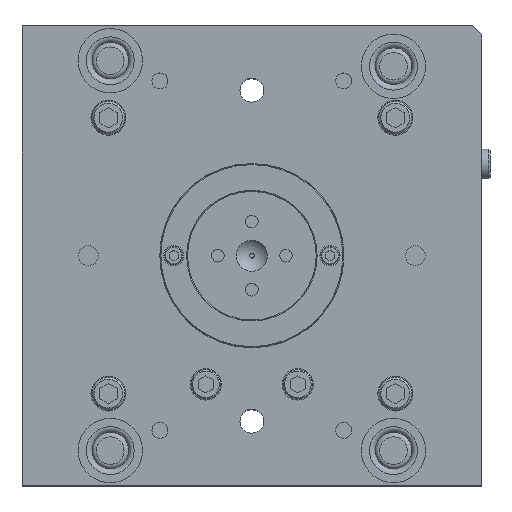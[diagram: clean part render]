
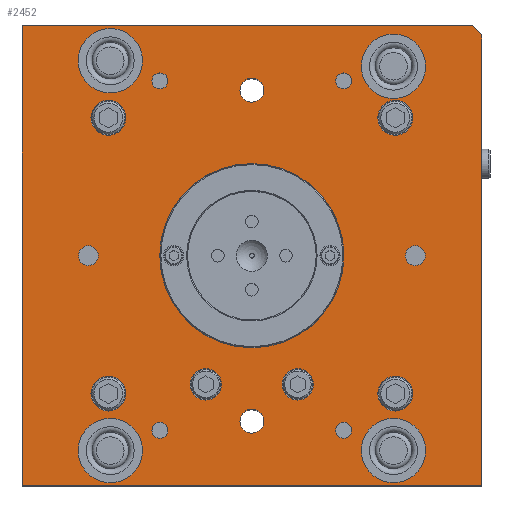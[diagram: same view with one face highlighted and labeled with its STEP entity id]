
A CAD part, top view. The second image highlights one B-rep face of the part: STEP entity #2452.
In plain terms, the highlighted planar face has unit normal (0, 0, 1).
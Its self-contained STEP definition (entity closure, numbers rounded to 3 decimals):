
#2452=ADVANCED_FACE('',(#8212,#8213,#8214,#8215,#8216,#8217,#8218,#8219,
#8220,#8221,#8222,#8223,#8224,#8225,#8226,#8227,#8228,#8229,#8230,#8231),
#3771,.F.);
#3771=PLANE('',#23052);
#4851=LINE('',#31871,#6533);
#4854=LINE('',#31880,#6536);
#4858=LINE('',#31918,#6540);
#4872=LINE('',#31939,#6554);
#4882=LINE('',#32034,#6564);
#6533=VECTOR('',#25857,1.);
#6536=VECTOR('',#25864,1.);
#6540=VECTOR('',#25870,1.);
#6554=VECTOR('',#25886,1.);
#6564=VECTOR('',#25996,1.);
#8212=FACE_BOUND('',#9731,.T.);
#8213=FACE_BOUND('',#9732,.T.);
#8214=FACE_BOUND('',#9733,.T.);
#8215=FACE_BOUND('',#9734,.T.);
#8216=FACE_BOUND('',#9735,.T.);
#8217=FACE_BOUND('',#9736,.T.);
#8218=FACE_BOUND('',#9737,.T.);
#8219=FACE_BOUND('',#9738,.T.);
#8220=FACE_BOUND('',#9739,.T.);
#8221=FACE_BOUND('',#9740,.T.);
#8222=FACE_BOUND('',#9741,.T.);
#8223=FACE_BOUND('',#9742,.T.);
#8224=FACE_BOUND('',#9743,.T.);
#8225=FACE_BOUND('',#9744,.T.);
#8226=FACE_BOUND('',#9745,.T.);
#8227=FACE_BOUND('',#9746,.T.);
#8228=FACE_BOUND('',#9747,.T.);
#8229=FACE_BOUND('',#9748,.T.);
#8230=FACE_BOUND('',#9749,.T.);
#8231=FACE_BOUND('',#9750,.T.);
#9731=EDGE_LOOP('',(#12674));
#9732=EDGE_LOOP('',(#12675));
#9733=EDGE_LOOP('',(#12676));
#9734=EDGE_LOOP('',(#12677));
#9735=EDGE_LOOP('',(#12678));
#9736=EDGE_LOOP('',(#12679));
#9737=EDGE_LOOP('',(#12680));
#9738=EDGE_LOOP('',(#12681));
#9739=EDGE_LOOP('',(#12682));
#9740=EDGE_LOOP('',(#12683));
#9741=EDGE_LOOP('',(#12684));
#9742=EDGE_LOOP('',(#12685));
#9743=EDGE_LOOP('',(#12686));
#9744=EDGE_LOOP('',(#12687));
#9745=EDGE_LOOP('',(#12688));
#9746=EDGE_LOOP('',(#12689));
#9747=EDGE_LOOP('',(#12690));
#9748=EDGE_LOOP('',(#12691));
#9749=EDGE_LOOP('',(#12692));
#9750=EDGE_LOOP('',(#12693,#12694,#12695,#12696,#12697));
#12674=ORIENTED_EDGE('',*,*,#19714,.F.);
#12675=ORIENTED_EDGE('',*,*,#19715,.F.);
#12676=ORIENTED_EDGE('',*,*,#19716,.T.);
#12677=ORIENTED_EDGE('',*,*,#19717,.T.);
#12678=ORIENTED_EDGE('',*,*,#19700,.F.);
#12679=ORIENTED_EDGE('',*,*,#19698,.T.);
#12680=ORIENTED_EDGE('',*,*,#19696,.F.);
#12681=ORIENTED_EDGE('',*,*,#19694,.T.);
#12682=ORIENTED_EDGE('',*,*,#19718,.F.);
#12683=ORIENTED_EDGE('',*,*,#19719,.F.);
#12684=ORIENTED_EDGE('',*,*,#19720,.F.);
#12685=ORIENTED_EDGE('',*,*,#19721,.F.);
#12686=ORIENTED_EDGE('',*,*,#19722,.T.);
#12687=ORIENTED_EDGE('',*,*,#19723,.T.);
#12688=ORIENTED_EDGE('',*,*,#19724,.T.);
#12689=ORIENTED_EDGE('',*,*,#19725,.F.);
#12690=ORIENTED_EDGE('',*,*,#19726,.F.);
#12691=ORIENTED_EDGE('',*,*,#19727,.T.);
#12692=ORIENTED_EDGE('',*,*,#19728,.F.);
#12693=ORIENTED_EDGE('',*,*,#19662,.F.);
#12694=ORIENTED_EDGE('',*,*,#19729,.T.);
#12695=ORIENTED_EDGE('',*,*,#19672,.F.);
#12696=ORIENTED_EDGE('',*,*,#19658,.T.);
#12697=ORIENTED_EDGE('',*,*,#19686,.F.);
#17439=VERTEX_POINT('',#31865);
#17442=VERTEX_POINT('',#31870);
#17446=VERTEX_POINT('',#31879);
#17447=VERTEX_POINT('',#31881);
#17456=VERTEX_POINT('',#31919);
#17467=VERTEX_POINT('',#31957);
#17469=VERTEX_POINT('',#31962);
#17471=VERTEX_POINT('',#31967);
#17473=VERTEX_POINT('',#31972);
#17482=VERTEX_POINT('',#32005);
#17483=VERTEX_POINT('',#32007);
#17484=VERTEX_POINT('',#32009);
#17485=VERTEX_POINT('',#32011);
#17486=VERTEX_POINT('',#32013);
#17487=VERTEX_POINT('',#32015);
#17488=VERTEX_POINT('',#32017);
#17489=VERTEX_POINT('',#32019);
#17490=VERTEX_POINT('',#32021);
#17491=VERTEX_POINT('',#32023);
#17492=VERTEX_POINT('',#32025);
#17493=VERTEX_POINT('',#32027);
#17494=VERTEX_POINT('',#32029);
#17495=VERTEX_POINT('',#32031);
#17496=VERTEX_POINT('',#32033);
#19658=EDGE_CURVE('',#17439,#17442,#4851,.T.);
#19662=EDGE_CURVE('',#17446,#17447,#4854,.T.);
#19672=EDGE_CURVE('',#17439,#17456,#4858,.T.);
#19686=EDGE_CURVE('',#17447,#17442,#4872,.T.);
#19694=EDGE_CURVE('',#17467,#17467,#21998,.T.);
#19696=EDGE_CURVE('',#17469,#17469,#22000,.T.);
#19698=EDGE_CURVE('',#17471,#17471,#22002,.T.);
#19700=EDGE_CURVE('',#17473,#17473,#22004,.T.);
#19714=EDGE_CURVE('',#17482,#17482,#22015,.T.);
#19715=EDGE_CURVE('',#17483,#17483,#22016,.T.);
#19716=EDGE_CURVE('',#17484,#17484,#22017,.T.);
#19717=EDGE_CURVE('',#17485,#17485,#22018,.T.);
#19718=EDGE_CURVE('',#17486,#17486,#22019,.T.);
#19719=EDGE_CURVE('',#17487,#17487,#22020,.T.);
#19720=EDGE_CURVE('',#17488,#17488,#22021,.T.);
#19721=EDGE_CURVE('',#17489,#17489,#22022,.T.);
#19722=EDGE_CURVE('',#17490,#17490,#22023,.T.);
#19723=EDGE_CURVE('',#17491,#17491,#22024,.T.);
#19724=EDGE_CURVE('',#17492,#17492,#22025,.T.);
#19725=EDGE_CURVE('',#17493,#17493,#22026,.T.);
#19726=EDGE_CURVE('',#17494,#17494,#22027,.T.);
#19727=EDGE_CURVE('',#17495,#17495,#22028,.T.);
#19728=EDGE_CURVE('',#17496,#17496,#22029,.T.);
#19729=EDGE_CURVE('',#17446,#17456,#4882,.T.);
#21998=CIRCLE('',#23007,4.35);
#22000=CIRCLE('',#23010,4.35);
#22002=CIRCLE('',#23013,4.35);
#22004=CIRCLE('',#23016,4.35);
#22015=CIRCLE('',#23037,8.5);
#22016=CIRCLE('',#23038,8.5);
#22017=CIRCLE('',#23039,6.5);
#22018=CIRCLE('',#23040,6.5);
#22019=CIRCLE('',#23041,9.5);
#22020=CIRCLE('',#23042,9.5);
#22021=CIRCLE('',#23043,9.5);
#22022=CIRCLE('',#23044,9.5);
#22023=CIRCLE('',#23045,5.4);
#22024=CIRCLE('',#23046,5.4);
#22025=CIRCLE('',#23047,50.1);
#22026=CIRCLE('',#23048,17.5);
#22027=CIRCLE('',#23049,17.5);
#22028=CIRCLE('',#23050,17.5);
#22029=CIRCLE('',#23051,17.5);
#23007=AXIS2_PLACEMENT_3D('',#31956,#25903,#25904);
#23010=AXIS2_PLACEMENT_3D('',#31961,#25909,#25910);
#23013=AXIS2_PLACEMENT_3D('',#31966,#25915,#25916);
#23016=AXIS2_PLACEMENT_3D('',#31971,#25921,#25922);
#23037=AXIS2_PLACEMENT_3D('',#32004,#25966,#25967);
#23038=AXIS2_PLACEMENT_3D('',#32006,#25968,#25969);
#23039=AXIS2_PLACEMENT_3D('',#32008,#25970,#25971);
#23040=AXIS2_PLACEMENT_3D('',#32010,#25972,#25973);
#23041=AXIS2_PLACEMENT_3D('',#32012,#25974,#25975);
#23042=AXIS2_PLACEMENT_3D('',#32014,#25976,#25977);
#23043=AXIS2_PLACEMENT_3D('',#32016,#25978,#25979);
#23044=AXIS2_PLACEMENT_3D('',#32018,#25980,#25981);
#23045=AXIS2_PLACEMENT_3D('',#32020,#25982,#25983);
#23046=AXIS2_PLACEMENT_3D('',#32022,#25984,#25985);
#23047=AXIS2_PLACEMENT_3D('',#32024,#25986,#25987);
#23048=AXIS2_PLACEMENT_3D('',#32026,#25988,#25989);
#23049=AXIS2_PLACEMENT_3D('',#32028,#25990,#25991);
#23050=AXIS2_PLACEMENT_3D('',#32030,#25992,#25993);
#23051=AXIS2_PLACEMENT_3D('',#32032,#25994,#25995);
#23052=AXIS2_PLACEMENT_3D('',#32035,#25997,#25998);
#25857=DIRECTION('',(0.,-1.,0.));
#25864=DIRECTION('',(0.,-1.,0.));
#25870=DIRECTION('',(1.,0.,0.));
#25886=DIRECTION('',(-1.,0.,0.));
#25903=DIRECTION('',(0.,0.,-1.));
#25904=DIRECTION('',(-1.,0.,0.));
#25909=DIRECTION('',(0.,0.,1.));
#25910=DIRECTION('',(-1.,0.,0.));
#25915=DIRECTION('',(0.,0.,-1.));
#25916=DIRECTION('',(-1.,0.,0.));
#25921=DIRECTION('',(0.,0.,1.));
#25922=DIRECTION('',(-1.,0.,0.));
#25966=DIRECTION('',(0.,0.,1.));
#25967=DIRECTION('',(-1.,0.,0.));
#25968=DIRECTION('',(0.,0.,1.));
#25969=DIRECTION('',(-1.,0.,0.));
#25970=DIRECTION('',(0.,0.,-1.));
#25971=DIRECTION('',(-1.,0.,0.));
#25972=DIRECTION('',(0.,0.,-1.));
#25973=DIRECTION('',(-1.,0.,0.));
#25974=DIRECTION('',(0.,0.,1.));
#25975=DIRECTION('',(-1.,0.,0.));
#25976=DIRECTION('',(0.,0.,1.));
#25977=DIRECTION('',(-1.,0.,0.));
#25978=DIRECTION('',(0.,0.,1.));
#25979=DIRECTION('',(-1.,0.,0.));
#25980=DIRECTION('',(0.,0.,1.));
#25981=DIRECTION('',(-1.,0.,0.));
#25982=DIRECTION('',(0.,0.,-1.));
#25983=DIRECTION('',(-1.,0.,0.));
#25984=DIRECTION('',(0.,0.,-1.));
#25985=DIRECTION('',(-1.,0.,0.));
#25986=DIRECTION('',(0.,0.,-1.));
#25987=DIRECTION('',(-1.,0.,0.));
#25988=DIRECTION('',(0.,0.,1.));
#25989=DIRECTION('',(-1.,0.,0.));
#25990=DIRECTION('',(0.,0.,1.));
#25991=DIRECTION('',(-1.,0.,0.));
#25992=DIRECTION('',(0.,0.,-1.));
#25993=DIRECTION('',(-1.,0.,0.));
#25994=DIRECTION('',(0.,0.,1.));
#25995=DIRECTION('',(-1.,0.,0.));
#25996=DIRECTION('',(-0.707,0.707,0.));
#25997=DIRECTION('',(0.,0.,-1.));
#25998=DIRECTION('',(-1.,0.,0.));
#31865=CARTESIAN_POINT('',(-125.,125.,379.99));
#31870=CARTESIAN_POINT('',(-125.,-125.,379.99));
#31871=CARTESIAN_POINT('',(-125.,0.,379.99));
#31879=CARTESIAN_POINT('',(125.,120.,379.99));
#31880=CARTESIAN_POINT('',(125.,0.,379.99));
#31881=CARTESIAN_POINT('',(125.,-125.,379.99));
#31918=CARTESIAN_POINT('',(75.,125.,379.99));
#31919=CARTESIAN_POINT('',(120.,125.,379.99));
#31939=CARTESIAN_POINT('',(75.,-125.,379.99));
#31956=CARTESIAN_POINT('',(50.,95.,379.99));
#31957=CARTESIAN_POINT('',(45.65,95.,379.99));
#31961=CARTESIAN_POINT('',(-50.,95.,379.99));
#31962=CARTESIAN_POINT('',(-54.35,95.,379.99));
#31966=CARTESIAN_POINT('',(-50.,-95.,379.99));
#31967=CARTESIAN_POINT('',(-54.35,-95.,379.99));
#31971=CARTESIAN_POINT('',(50.,-95.,379.99));
#31972=CARTESIAN_POINT('',(45.65,-95.,379.99));
#32004=CARTESIAN_POINT('',(-25.,-70.,379.99));
#32005=CARTESIAN_POINT('',(-33.5,-70.,379.99));
#32006=CARTESIAN_POINT('',(25.,-70.,379.99));
#32007=CARTESIAN_POINT('',(16.5,-70.,379.99));
#32008=CARTESIAN_POINT('',(0.,-90.,379.99));
#32009=CARTESIAN_POINT('',(-6.5,-90.,379.99));
#32010=CARTESIAN_POINT('',(0.,90.,379.99));
#32011=CARTESIAN_POINT('',(-6.5,90.,379.99));
#32012=CARTESIAN_POINT('',(78.,-75.,379.99));
#32013=CARTESIAN_POINT('',(68.5,-75.,379.99));
#32014=CARTESIAN_POINT('',(-78.,-75.,379.99));
#32015=CARTESIAN_POINT('',(-87.5,-75.,379.99));
#32016=CARTESIAN_POINT('',(78.,75.,379.99));
#32017=CARTESIAN_POINT('',(68.5,75.,379.99));
#32018=CARTESIAN_POINT('',(-78.,75.,379.99));
#32019=CARTESIAN_POINT('',(-87.5,75.,379.99));
#32020=CARTESIAN_POINT('',(88.9,0.,379.99));
#32021=CARTESIAN_POINT('',(83.5,0.,379.99));
#32022=CARTESIAN_POINT('',(-88.9,0.,379.99));
#32023=CARTESIAN_POINT('',(-94.3,0.,379.99));
#32024=CARTESIAN_POINT('',(0.,0.,379.99));
#32025=CARTESIAN_POINT('',(-50.1,0.,379.99));
#32026=CARTESIAN_POINT('',(77.,103.,379.99));
#32027=CARTESIAN_POINT('',(59.5,103.,379.99));
#32028=CARTESIAN_POINT('',(77.,-106.,379.99));
#32029=CARTESIAN_POINT('',(59.5,-106.,379.99));
#32030=CARTESIAN_POINT('',(-77.,-106.,379.99));
#32031=CARTESIAN_POINT('',(-94.5,-106.,379.99));
#32032=CARTESIAN_POINT('',(-77.,106.,379.99));
#32033=CARTESIAN_POINT('',(-94.5,106.,379.99));
#32034=CARTESIAN_POINT('',(120.,125.,379.99));
#32035=CARTESIAN_POINT('',(75.,0.,379.99));
